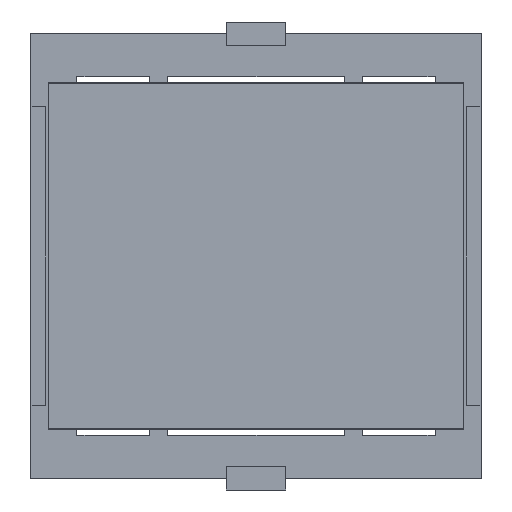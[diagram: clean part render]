
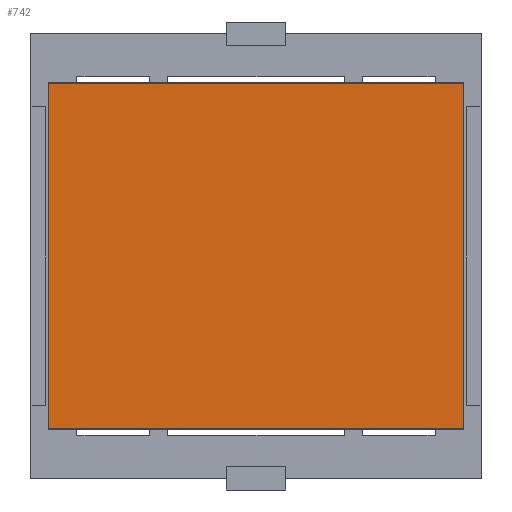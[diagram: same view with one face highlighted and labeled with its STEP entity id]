
A CAD part, front view. The second image highlights one B-rep face of the part: STEP entity #742.
In plain terms, the highlighted planar face has unit normal (0, -1, 0).
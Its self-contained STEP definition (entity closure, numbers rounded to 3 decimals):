
#174 = ORIENTED_EDGE ( 'NONE', *, *, #6184, .F. ) ;
#186 = CARTESIAN_POINT ( 'NONE',  ( -15.712, -18.701, 26.207 ) ) ;
#362 = ORIENTED_EDGE ( 'NONE', *, *, #2820, .F. ) ;
#467 = VECTOR ( 'NONE', #3031, 1000. ) ;
#571 = DIRECTION ( 'NONE',  ( 0., 0., 1. ) ) ;
#696 = EDGE_CURVE ( 'NONE', #3664, #2404, #3617, .T. ) ;
#742 = ADVANCED_FACE ( 'NONE', ( #3088 ), #2187, .F. ) ;
#898 = CARTESIAN_POINT ( 'NONE',  ( -15.712, -18.701, 26.207 ) ) ;
#907 = CARTESIAN_POINT ( 'NONE',  ( -15.712, -18.701, -2.749 ) ) ;
#1014 = VECTOR ( 'NONE', #1425, 1000. ) ;
#1425 = DIRECTION ( 'NONE',  ( 1., 0., 0. ) ) ;
#1428 = VECTOR ( 'NONE', #5881, 1000. ) ;
#1728 = CARTESIAN_POINT ( 'NONE',  ( 19.086, -18.701, -2.749 ) ) ;
#2187 = PLANE ( 'NONE',  #4009 ) ;
#2358 = LINE ( 'NONE', #4451, #1428 ) ;
#2404 = VERTEX_POINT ( 'NONE', #5575 ) ;
#2820 = EDGE_CURVE ( 'NONE', #4159, #2854, #6199, .T. ) ;
#2854 = VERTEX_POINT ( 'NONE', #6650 ) ;
#3031 = DIRECTION ( 'NONE',  ( -1., 0., 0. ) ) ;
#3088 = FACE_OUTER_BOUND ( 'NONE', #6495, .T. ) ;
#3617 = LINE ( 'NONE', #898, #1014 ) ;
#3664 = VERTEX_POINT ( 'NONE', #186 ) ;
#3776 = ORIENTED_EDGE ( 'NONE', *, *, #696, .F. ) ;
#4009 = AXIS2_PLACEMENT_3D ( 'NONE', #5381, #4297, #6418 ) ;
#4159 = VERTEX_POINT ( 'NONE', #1728 ) ;
#4297 = DIRECTION ( 'NONE',  ( 0., 1., 0. ) ) ;
#4451 = CARTESIAN_POINT ( 'NONE',  ( 19.086, -18.701, -2.749 ) ) ;
#4906 = CARTESIAN_POINT ( 'NONE',  ( -15.712, -18.701, -2.749 ) ) ;
#5381 = CARTESIAN_POINT ( 'NONE',  ( -15.712, -18.701, 26.207 ) ) ;
#5506 = VECTOR ( 'NONE', #571, 1000. ) ;
#5575 = CARTESIAN_POINT ( 'NONE',  ( 19.086, -18.701, 26.207 ) ) ;
#5787 = EDGE_CURVE ( 'NONE', #2854, #3664, #6448, .T. ) ;
#5881 = DIRECTION ( 'NONE',  ( 0., 0., -1. ) ) ;
#5981 = ORIENTED_EDGE ( 'NONE', *, *, #5787, .F. ) ;
#6184 = EDGE_CURVE ( 'NONE', #2404, #4159, #2358, .T. ) ;
#6199 = LINE ( 'NONE', #907, #467 ) ;
#6418 = DIRECTION ( 'NONE',  ( 0., 0., 1. ) ) ;
#6448 = LINE ( 'NONE', #4906, #5506 ) ;
#6495 = EDGE_LOOP ( 'NONE', ( #5981, #362, #174, #3776 ) ) ;
#6650 = CARTESIAN_POINT ( 'NONE',  ( -15.712, -18.701, -2.749 ) ) ;
